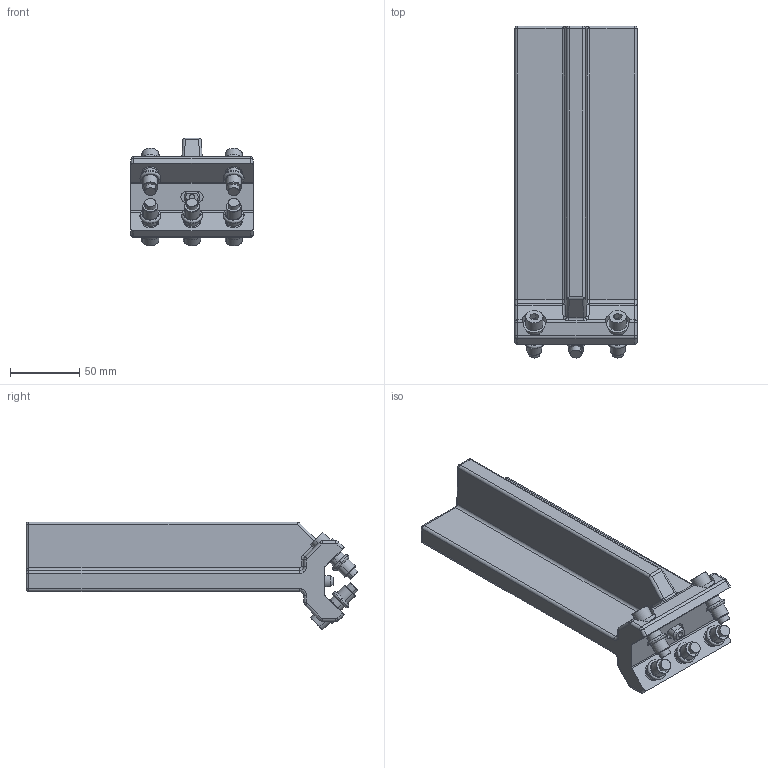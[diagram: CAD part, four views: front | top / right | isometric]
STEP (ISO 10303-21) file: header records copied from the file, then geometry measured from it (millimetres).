
FILE_DESCRIPTION(('STEP AP214'),'1');
FILE_NAME('EGT235_1698051_SEITENANB_MITTIG_SW50.CATPart.stp','2015-09-14T13:14:50',('3D-Tool'),(' '),'Spatial InterOp 3D',' ',' ');
FILE_SCHEMA(('automotive_design'));
Length unit declared in the file: millimetre
Products named in the file (12): EGT235_1698051_SEITENANB_MITTIG_SW50|5252148.1_Anbindung mittig SW50|5252148.1_Anbindung mittig SW50; EGT235_1698051_SEITENANB_MITTIG_SW50|Schraube_M8x30.1_Hauptkörper|Schraube_M8x30.1_Hauptkörper; EGT235_1698051_SEITENANB_MITTIG_SW50|Schraube_M8x30.2_Hauptkörper|Schraube_M8x30.2_Hauptkörper; EGT235_1698051_SEITENANB_MITTIG_SW50|Schraube_M8x30.3_Hauptkörper|Schraube_M8x30.3_Hauptkörper; EGT235_1698051_SEITENANB_MITTIG_SW50|Schraube_M8x30.4_Hauptkörper|Schraube_M8x30.4_Hauptkörper; EGT235_1698051_SEITENANB_MITTIG_SW50|Schraube_M8x30.5_Hauptkörper|Schraube_M8x30.5_Hauptkörper; EGT235_1698051_SEITENANB_MITTIG_SW50|Eurosert_M8.1_Hauptkörper|Eurosert_M8.1_Hauptkörper; EGT235_1698051_SEITENANB_MITTIG_SW50|Eurosert_M8.2_Hauptkörper|Eurosert_M8.2_Hauptkörper; EGT235_1698051_SEITENANB_MITTIG_SW50|Eurosert_M8.3_Hauptkörper|Eurosert_M8.3_Hauptkörper; EGT235_1698051_SEITENANB_MITTIG_SW50|Eurosert_M8.4_Hauptkörper|Eurosert_M8.4_Hauptkörper; EGT235_1698051_SEITENANB_MITTIG_SW50|Eurosert_M8.5_Hauptkörper|Eurosert_M8.5_Hauptkörper; EGT235_1698051_SEITENANB_MITTIG_SW50|5252162.1_Zentrierstift Vario-Handlingsystem|5252162.1_Zentrierstift Vario-Handlingsystem
Bounding box: 88 x 238.94 x 77.68 mm (x, y, z)
Volume: 467131.1 mm3; surface area: 86453.1 mm2
Topology: 12 solids, 12 shells, 354 faces, 895 edges, 584 vertices
Faces by surface type: cylinder 157, plane 113, torus 36, cone 32, bspline 10, sphere 6
Entity records: 13801 total; most frequent: CARTESIAN_POINT 4389, ORIENTED_EDGE 1774, EDGE_CURVE 887, DIRECTION 739, VERTEX_POINT 584, B_SPLINE_CURVE_WITH_KNOTS 410, EDGE_LOOP 403, STYLED_ITEM 366
